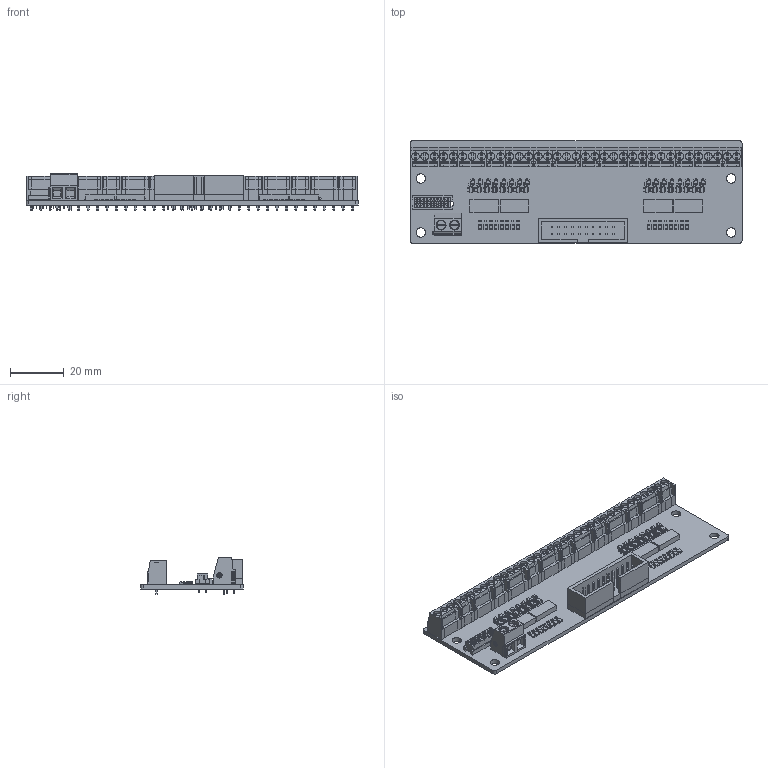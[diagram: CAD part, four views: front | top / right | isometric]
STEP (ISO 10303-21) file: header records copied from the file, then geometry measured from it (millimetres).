
FILE_DESCRIPTION(('Open CASCADE Model'),'2;1');
FILE_NAME('Open CASCADE Shape Model','2020-06-05T16:33:37',('Author'),( 'Open CASCADE'),'Open CASCADE STEP processor 6.8','Open CASCADE 6.8' ,'Unknown');
FILE_SCHEMA(('AUTOMOTIVE_DESIGN { 1 0 10303 214 1 1 1 1 }'));
Length unit declared in the file: millimetre
Products named in the file (129): PCB; Board; Open CASCADE STEP translator 6.8 1.1.1; +_5_V_-; msb02001; PoExtension1; c-0215079-10-v-3d_RGB255; R32; 6438565856; Extruded; 6438565456; R31; R30; R29; R28; 6438555216; R27; R26; R25; R24; R23; R22; R21; R20; R19; R18; R17; R16; R15; R14; R13; R12; R11; R10; R9; R8; R7; R6; R5; R4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
Assembly tree (315 placements, depth 5):
  PCB
    Board
      Open CASCADE STEP translator 6.8 1.1.1
    +_5_V_-
      msb02001
    PoExtension1
      c-0215079-10-v-3d_RGB255
    R32
      6438565856
        Extruded
      6438565456  x2
        Extruded
    R31
      6438565856
        Extruded
      6438565456  x2
        Extruded
    R30
      6438565856
        Extruded
      6438565456  x2
        Extruded
    R29
      6438565856
        Extruded
      6438565456  x2
        Extruded
    R28
      6438565856
        Extruded
      6438555216  x2
        Extruded
    R27
      6438565856
        Extruded
      6438565456  x2
        Extruded
    R26
      6438565856
        Extruded
      6438555216  x2
        Extruded
    R25
      6438565856
        Extruded
      6438555216  x2
        Extruded
    R24
      6438565856
        Extruded
      6438565456  x2
        Extruded
    R23
      6438565856
        Extruded
      6438555216  x2
        Extruded
    R22
      6438565856
        Extruded
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Bounding box: 123 x 38 x 13.5 mm (x, y, z)
Volume: 16317.8 mm3; surface area: 26031.3 mm2
Topology: 311 solids, 311 shells, 7416 faces, 17682 edges, 10868 vertices
Faces by surface type: plane 6002, cylinder 1146, sphere 128, bspline 128, torus 8, cone 4
Full cylindrical faces by diameter (mm): 0.85 x10, 0.9 x20, 1.1 x37, 1.8 x1, 2.9 x7, 3.5 x4
Entity records: 58850 total; most frequent: CARTESIAN_POINT 9613, DIRECTION 7721, ORIENTED_EDGE 7698, EDGE_CURVE 3849, LINE 3311, VECTOR 3311, VERTEX_POINT 2514, AXIS2_PLACEMENT_3D 2205
